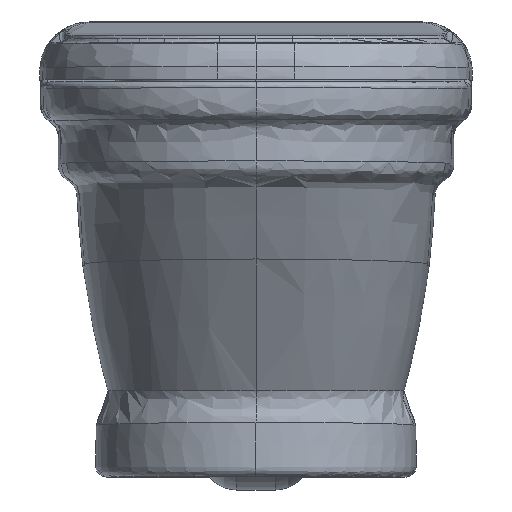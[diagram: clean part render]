
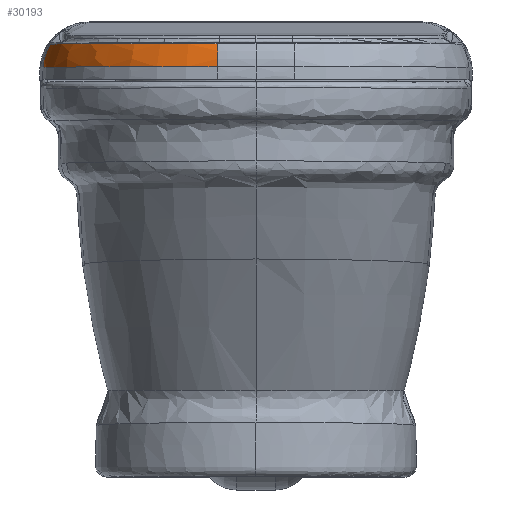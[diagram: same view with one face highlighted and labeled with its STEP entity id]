
A CAD part, top view. The second image highlights one B-rep face of the part: STEP entity #30193.
In plain terms, the highlighted free-form (B-spline) face has degree [3, 3] with [4, 4] control points.
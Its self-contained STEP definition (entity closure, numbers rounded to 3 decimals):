
#3770 = CARTESIAN_POINT ( 'NONE',  ( -167.684, 31.62, 137.012 ) ) ;
#4493 = CARTESIAN_POINT ( 'NONE',  ( -177.924, 12.297, 104.145 ) ) ;
#4613 = DIRECTION ( 'NONE',  ( 0., 0., 1. ) ) ;
#4745 = CARTESIAN_POINT ( 'NONE',  ( -163.877, 31.62, 150.744 ) ) ;
#9034 = DIRECTION ( 'NONE',  ( 0., 0., 1. ) ) ;
#10792 = CARTESIAN_POINT ( 'NONE',  ( -93.136, 31.62, 237.272 ) ) ;
#13179 = CARTESIAN_POINT ( 'NONE',  ( -32.419, 12.297, 263.099 ) ) ;
#13186 = CARTESIAN_POINT ( 'NONE',  ( -171.475, 31.724, 104.145 ) ) ;
#14136 = CARTESIAN_POINT ( 'NONE',  ( -32.367, 19.251, 262.627 ) ) ;
#14348 = CIRCLE ( 'NONE', #124358, 41. ) ;
#16592 = CARTESIAN_POINT ( 'NONE',  ( -152.706, 31.62, 176.74 ) ) ;
#22548 = EDGE_CURVE ( 'NONE', #133301, #64797, #102494, .T. ) ;
#25127 = ORIENTED_EDGE ( 'NONE', *, *, #22548, .T. ) ;
#25563 = CARTESIAN_POINT ( 'NONE',  ( -106.167, 31.62, 229.065 ) ) ;
#27485 = CARTESIAN_POINT ( 'NONE',  ( -133.907, 31.62, 203.798 ) ) ;
#28446 = CARTESIAN_POINT ( 'NONE',  ( -68.616, 31.62, 248.575 ) ) ;
#28915 = CARTESIAN_POINT ( 'NONE',  ( -177.449, 19.251, 104.145 ) ) ;
#30193 = ADVANCED_FACE ( 'NONE', ( #133232 ), #191145, .T. ) ;
#30856 = CARTESIAN_POINT ( 'NONE',  ( -116.875, 25.866, 252.099 ) ) ;
#31363 = CARTESIAN_POINT ( 'NONE',  ( -142.738, 31.62, 192.65 ) ) ;
#33213 = AXIS2_PLACEMENT_3D ( 'NONE', #171478, #82900, #9034 ) ;
#33294 = CARTESIAN_POINT ( 'NONE',  ( -138.426, 31.62, 198.29 ) ) ;
#37609 = VERTEX_POINT ( 'NONE', #37899 ) ;
#37899 = CARTESIAN_POINT ( 'NONE',  ( -31.728, 31.62, 256.755 ) ) ;
#40574 = CARTESIAN_POINT ( 'NONE',  ( -171.542, 31.62, 104.145 ) ) ;
#41291 = CARTESIAN_POINT ( 'NONE',  ( -81.64, 31.62, 243.257 ) ) ;
#42114 = DIRECTION ( 'NONE',  ( -0.108, 0., 0.994 ) ) ;
#42252 = CARTESIAN_POINT ( 'NONE',  ( -127.561, 31.62, 210.791 ) ) ;
#43213 = CARTESIAN_POINT ( 'NONE',  ( -36.462, 31.62, 256.29 ) ) ;
#44043 = DIRECTION ( 'NONE',  ( 0.994, 0., 0.108 ) ) ;
#45612 = CARTESIAN_POINT ( 'NONE',  ( -175.253, 25.866, 104.145 ) ) ;
#49025 = CARTESIAN_POINT ( 'NONE',  ( -171.492, 31.62, 108.902 ) ) ;
#55926 = CARTESIAN_POINT ( 'NONE',  ( -27.995, 9.502, 222.435 ) ) ;
#57012 = CARTESIAN_POINT ( 'NONE',  ( -94.163, 31.62, 236.683 ) ) ;
#58457 = CIRCLE ( 'NONE', #93045, 41. ) ;
#59899 = CARTESIAN_POINT ( 'NONE',  ( -50.49, 31.62, 253.76 ) ) ;
#60375 = CARTESIAN_POINT ( 'NONE',  ( -170.606, 31.724, 187.269 ) ) ;
#61349 = CARTESIAN_POINT ( 'NONE',  ( -118.284, 19.251, 254.155 ) ) ;
#61853 = CARTESIAN_POINT ( 'NONE',  ( -158.884, 31.62, 164.071 ) ) ;
#62826 = CARTESIAN_POINT ( 'NONE',  ( -168.194, 31.62, 134.691 ) ) ;
#63790 = CARTESIAN_POINT ( 'NONE',  ( -166.554, 31.62, 141.631 ) ) ;
#64767 = CARTESIAN_POINT ( 'NONE',  ( -156.948, 31.62, 168.364 ) ) ;
#64797 = VERTEX_POINT ( 'NONE', #13179 ) ;
#66185 = B_SPLINE_CURVE_WITH_KNOTS ( 'NONE', 3,
 ( #117995, #43213, #71800, #193786, #59899, #163289, #72754, #191875, #28446, #148502, #41291, #145619, #131823, #10792, #57012, #70824, #119923, #117044, #25563, #130856, #177089, #132772, #42252, #162318, #27485, #147547, #88497, #33294, #79553, #31363, #78567, #90435, #16592, #64767, #61853, #183861, #108089, #4745, #93339, #63790, #3770, #62826, #122850, #166202, #138579, #49025, #182896 ),
 .UNSPECIFIED., .F., .F.,
 ( 4, 2, 2, 2, 2, 2, 2, 2, 2, 2, 2, 2, 2, 2, 2, 2, 2, 2, 2, 1, 2, 2, 2, 4 ),
 ( 0., 0.014, 0.021, 0.028, 0.043, 0.057, 0.064, 0.068, 0.071, 0.085, 0.1, 0.114, 0.121, 0.125, 0.128, 0.142, 0.157, 0.171, 0.178, 0.185, 0.192, 0.199, 0.214, 0.228 ),
 .UNSPECIFIED. ) ;
#70824 = CARTESIAN_POINT ( 'NONE',  ( -96.207, 31.62, 235.48 ) ) ;
#71800 = CARTESIAN_POINT ( 'NONE',  ( -41.163, 31.62, 255.608 ) ) ;
#72754 = CARTESIAN_POINT ( 'NONE',  ( -57.38, 31.62, 252.048 ) ) ;
#75757 = ORIENTED_EDGE ( 'NONE', *, *, #139853, .T. ) ;
#78567 = CARTESIAN_POINT ( 'NONE',  ( -145.415, 31.62, 188.778 ) ) ;
#79553 = CARTESIAN_POINT ( 'NONE',  ( -139.155, 31.62, 197.356 ) ) ;
#82900 = DIRECTION ( 'NONE',  ( 0., 1., 0. ) ) ;
#88497 = CARTESIAN_POINT ( 'NONE',  ( -136.945, 31.62, 200.145 ) ) ;
#90435 = CARTESIAN_POINT ( 'NONE',  ( -150.399, 31.62, 180.823 ) ) ;
#93045 = AXIS2_PLACEMENT_3D ( 'NONE', #107960, #4613, #154217 ) ;
#93339 = CARTESIAN_POINT ( 'NONE',  ( -165.32, 31.62, 146.219 ) ) ;
#94692 = EDGE_CURVE ( 'NONE', #37609, #110675, #66185, .T. ) ;
#102494 = CIRCLE ( 'NONE', #33213, 161.353 ) ;
#103716 = CARTESIAN_POINT ( 'NONE',  ( -177.055, 12.297, 190.73 ) ) ;
#107960 = CARTESIAN_POINT ( 'NONE',  ( -137.02, 9.502, 104.145 ) ) ;
#108089 = CARTESIAN_POINT ( 'NONE',  ( -162.33, 31.62, 155.238 ) ) ;
#110675 = VERTEX_POINT ( 'NONE', #40574 ) ;
#117044 = CARTESIAN_POINT ( 'NONE',  ( -102.274, 31.62, 231.735 ) ) ;
#117498 = CARTESIAN_POINT ( 'NONE',  ( -32.13, 25.866, 260.444 ) ) ;
#117995 = CARTESIAN_POINT ( 'NONE',  ( -31.728, 31.62, 256.755 ) ) ;
#119923 = CARTESIAN_POINT ( 'NONE',  ( -97.226, 31.62, 234.865 ) ) ;
#121367 = CARTESIAN_POINT ( 'NONE',  ( -177.924, 12.297, 104.145 ) ) ;
#122850 = CARTESIAN_POINT ( 'NONE',  ( -169.563, 31.62, 127.715 ) ) ;
#124358 = AXIS2_PLACEMENT_3D ( 'NONE', #55926, #44043, #42114 ) ;
#124691 = ORIENTED_EDGE ( 'NONE', *, *, #139484, .F. ) ;
#130856 = CARTESIAN_POINT ( 'NONE',  ( -113.672, 31.62, 223.402 ) ) ;
#131823 = CARTESIAN_POINT ( 'NONE',  ( -90.039, 31.62, 239. ) ) ;
#132279 = CARTESIAN_POINT ( 'NONE',  ( -114.451, 31.724, 248.563 ) ) ;
#132772 = CARTESIAN_POINT ( 'NONE',  ( -124.229, 31.62, 214.104 ) ) ;
#133232 = FACE_OUTER_BOUND ( 'NONE', #158414, .T. ) ;
#133301 = VERTEX_POINT ( 'NONE', #4493 ) ;
#138579 = CARTESIAN_POINT ( 'NONE',  ( -171.224, 31.62, 113.632 ) ) ;
#139484 = EDGE_CURVE ( 'NONE', #37609, #64797, #14348, .T. ) ;
#139853 = EDGE_CURVE ( 'NONE', #110675, #133301, #58457, .T. ) ;
#145619 = CARTESIAN_POINT ( 'NONE',  ( -87.954, 31.62, 240.102 ) ) ;
#147547 = CARTESIAN_POINT ( 'NONE',  ( -136.192, 31.62, 201.067 ) ) ;
#148502 = CARTESIAN_POINT ( 'NONE',  ( -77.351, 31.62, 245.161 ) ) ;
#150918 = CARTESIAN_POINT ( 'NONE',  ( -118.589, 12.297, 254.6 ) ) ;
#154217 = DIRECTION ( 'NONE',  ( -1., 0., 0. ) ) ;
#158414 = EDGE_LOOP ( 'NONE', ( #124691, #171628, #75757, #25127 ) ) ;
#162318 = CARTESIAN_POINT ( 'NONE',  ( -132.347, 31.62, 205.577 ) ) ;
#163289 = CARTESIAN_POINT ( 'NONE',  ( -55.097, 31.62, 252.653 ) ) ;
#165693 = CARTESIAN_POINT ( 'NONE',  ( -174.384, 25.866, 189.296 ) ) ;
#166202 = CARTESIAN_POINT ( 'NONE',  ( -170.26, 31.62, 123.038 ) ) ;
#171478 = CARTESIAN_POINT ( 'NONE',  ( -16.579, 12.297, 102.526 ) ) ;
#171628 = ORIENTED_EDGE ( 'NONE', *, *, #94692, .T. ) ;
#177089 = CARTESIAN_POINT ( 'NONE',  ( -117.284, 31.62, 220.41 ) ) ;
#177542 = CARTESIAN_POINT ( 'NONE',  ( -176.58, 19.251, 190.475 ) ) ;
#180456 = CARTESIAN_POINT ( 'NONE',  ( -31.721, 31.724, 256.688 ) ) ;
#182896 = CARTESIAN_POINT ( 'NONE',  ( -171.542, 31.62, 104.145 ) ) ;
#183861 = CARTESIAN_POINT ( 'NONE',  ( -161.503, 31.62, 157.469 ) ) ;
#191145 =( BOUNDED_SURFACE ( )  B_SPLINE_SURFACE ( 3, 3, ( 
 ( #13186, #60375, #132279, #180456 ),
 ( #45612, #165693, #30856, #117498 ),
 ( #28915, #177542, #61349, #14136 ),
 ( #121367, #103716, #150918, #193284 ) ),
 .UNSPECIFIED., .F., .F., .F. ) 
 B_SPLINE_SURFACE_WITH_KNOTS ( ( 4, 4 ),
 ( 4, 4 ),
 ( 0., 1. ),
 ( 0., 1. ),
 .UNSPECIFIED. ) 
 GEOMETRIC_REPRESENTATION_ITEM ( )  RATIONAL_B_SPLINE_SURFACE ( (
 ( 1., 0.83, 0.83, 1.),
 ( 0.979, 0.812, 0.812, 0.979),
 ( 0.979, 0.812, 0.812, 0.979),
 ( 1., 0.83, 0.83, 1.) ) ) 
 REPRESENTATION_ITEM ( '' )  SURFACE ( )  );
#191875 = CARTESIAN_POINT ( 'NONE',  ( -64.169, 31.62, 250.084 ) ) ;
#193284 = CARTESIAN_POINT ( 'NONE',  ( -32.419, 12.297, 263.099 ) ) ;
#193786 = CARTESIAN_POINT ( 'NONE',  ( -48.163, 31.62, 254.263 ) ) ;
